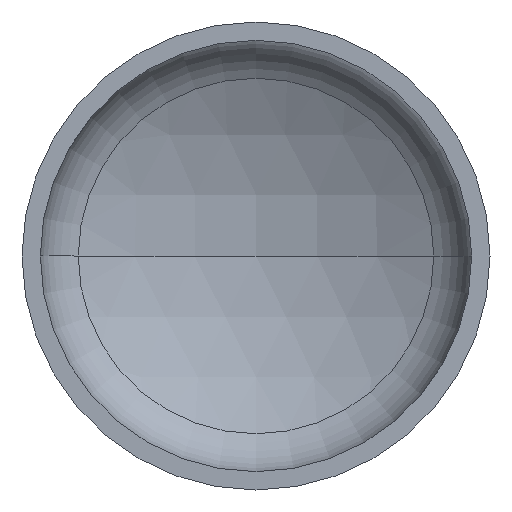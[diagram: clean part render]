
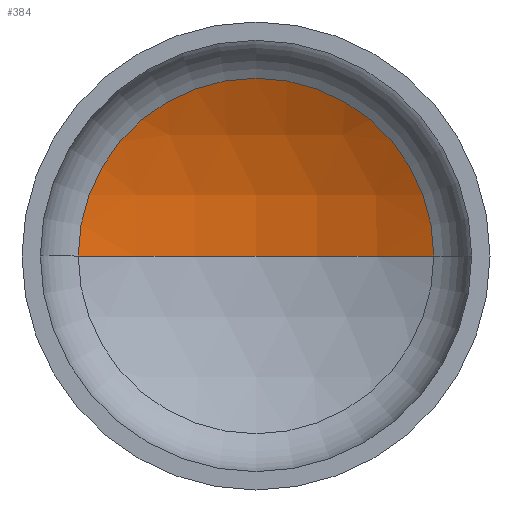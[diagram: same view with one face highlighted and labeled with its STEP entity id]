
A CAD part, front view. The second image highlights one B-rep face of the part: STEP entity #384.
In plain terms, the highlighted spherical face has radius 1920 mm.
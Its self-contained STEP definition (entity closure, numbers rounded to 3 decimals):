
#14 = DIRECTION ( 'NONE',  ( 1., 0., 0. ) ) ;
#37 = EDGE_LOOP ( 'NONE', ( #177, #166, #91 ) ) ;
#42 = AXIS2_PLACEMENT_3D ( 'NONE', #369, #152, #14 ) ;
#44 = AXIS2_PLACEMENT_3D ( 'NONE', #195, #197, #184 ) ;
#45 = AXIS2_PLACEMENT_3D ( 'NONE', #297, #295, #218 ) ;
#64 = VERTEX_POINT ( 'NONE', #231 ) ;
#90 = EDGE_CURVE ( 'NONE', #201, #64, #269, .T. ) ;
#91 = ORIENTED_EDGE ( 'NONE', *, *, #90, .T. ) ;
#94 = EDGE_CURVE ( 'NONE', #198, #201, #331, .T. ) ;
#100 = EDGE_CURVE ( 'NONE', #198, #64, #326, .T. ) ;
#129 = DIRECTION ( 'NONE',  ( 0., 0., -1. ) ) ;
#152 = DIRECTION ( 'NONE',  ( 0., 0., 1. ) ) ;
#166 = ORIENTED_EDGE ( 'NONE', *, *, #94, .T. ) ;
#177 = ORIENTED_EDGE ( 'NONE', *, *, #100, .F. ) ;
#184 = DIRECTION ( 'NONE',  ( -1., 0., 0. ) ) ;
#195 = CARTESIAN_POINT ( 'NONE',  ( 0., -1264.113, 0. ) ) ;
#197 = DIRECTION ( 'NONE',  ( 0., 0., -1. ) ) ;
#198 = VERTEX_POINT ( 'NONE', #272 ) ;
#201 = VERTEX_POINT ( 'NONE', #205 ) ;
#205 = CARTESIAN_POINT ( 'NONE',  ( 911.69, 425.627, 0. ) ) ;
#218 = DIRECTION ( 'NONE',  ( 1., 0., 0. ) ) ;
#225 = SPHERICAL_SURFACE ( 'NONE', #267, 1920. ) ;
#231 = CARTESIAN_POINT ( 'NONE',  ( -911.69, 425.627, 0. ) ) ;
#240 = DIRECTION ( 'NONE',  ( -1., 0., 0. ) ) ;
#260 = CARTESIAN_POINT ( 'NONE',  ( 0., -1264.113, 0. ) ) ;
#267 = AXIS2_PLACEMENT_3D ( 'NONE', #260, #129, #240 ) ;
#269 = CIRCLE ( 'NONE', #45, 911.69 ) ;
#272 = CARTESIAN_POINT ( 'NONE',  ( 0., 655.887, 0. ) ) ;
#295 = DIRECTION ( 'NONE',  ( 0., -1., 0. ) ) ;
#297 = CARTESIAN_POINT ( 'NONE',  ( 0., 425.627, 0. ) ) ;
#326 = CIRCLE ( 'NONE', #42, 1920. ) ;
#331 = CIRCLE ( 'NONE', #44, 1920. ) ;
#369 = CARTESIAN_POINT ( 'NONE',  ( 0., -1264.113, 0. ) ) ;
#384 = ADVANCED_FACE ( 'NONE', ( #403 ), #225, .F. ) ;
#403 = FACE_OUTER_BOUND ( 'NONE', #37, .T. ) ;
